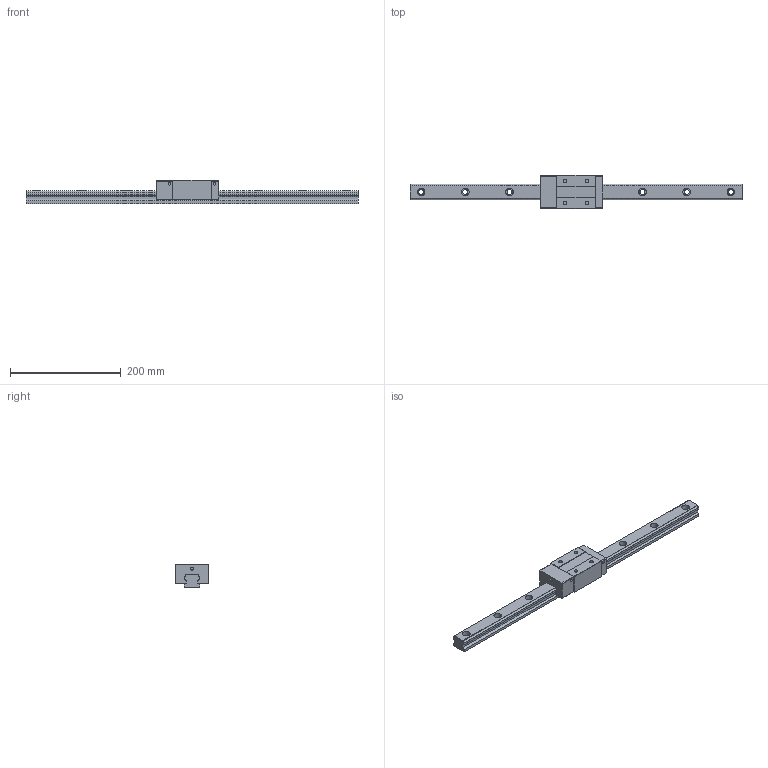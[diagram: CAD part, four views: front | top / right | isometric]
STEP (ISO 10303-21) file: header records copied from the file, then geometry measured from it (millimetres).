
FILE_DESCRIPTION (( 'STEP AP203' ), '1' );
FILE_NAME ('TRS30VN-BN.STEP', '2024-07-12T01:08:59', ( '' ), ( '' ), 'SwSTEP 2.0', 'SolidWorks 2022', '' );
FILE_SCHEMA (( 'CONFIG_CONTROL_DESIGN' ));
Length unit declared in the file: millimetre
Products named in the file (1): TRS30VN-BN
Bounding box: 600 x 60 x 42 mm (x, y, z)
Volume: 507173.6 mm3; surface area: 99990 mm2
Topology: 2 solids, 2 shells, 178 faces, 464 edges, 308 vertices
Faces by surface type: plane 90, cylinder 88
Entity records: 5619 total; most frequent: DIRECTION 998, CARTESIAN_POINT 951, ORIENTED_EDGE 928, EDGE_CURVE 464, AXIS2_PLACEMENT_3D 355, VERTEX_POINT 308, LINE 288, VECTOR 288
